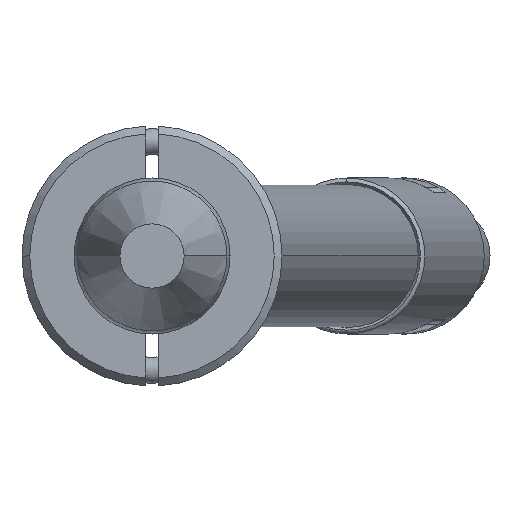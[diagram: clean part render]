
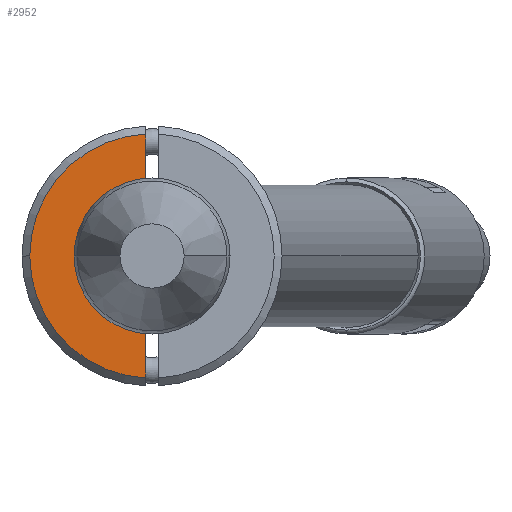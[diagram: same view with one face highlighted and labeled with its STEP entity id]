
A CAD part, front view. The second image highlights one B-rep face of the part: STEP entity #2952.
In plain terms, the highlighted planar face has unit normal (0, -1, 0).
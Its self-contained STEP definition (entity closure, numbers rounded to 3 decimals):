
#93 = AXIS2_PLACEMENT_3D ( 'NONE', #987, #3367, #694 ) ;
#322 = ORIENTED_EDGE ( 'NONE', *, *, #3650, .T. ) ;
#335 = EDGE_CURVE ( 'NONE', #2355, #2261, #3334, .T. ) ;
#375 = CARTESIAN_POINT ( 'NONE',  ( 0., -6., 0. ) ) ;
#501 = FACE_OUTER_BOUND ( 'NONE', #2864, .T. ) ;
#694 = DIRECTION ( 'NONE',  ( 0., 0., -1. ) ) ;
#720 = ORIENTED_EDGE ( 'NONE', *, *, #335, .T. ) ;
#763 = EDGE_CURVE ( 'NONE', #2355, #3071, #1296, .T. ) ;
#773 = EDGE_CURVE ( 'NONE', #2493, #2261, #3047, .T. ) ;
#778 = ORIENTED_EDGE ( 'NONE', *, *, #1329, .T. ) ;
#899 = VERTEX_POINT ( 'NONE', #1725 ) ;
#902 = AXIS2_PLACEMENT_3D ( 'NONE', #1328, #2297, #2530 ) ;
#987 = CARTESIAN_POINT ( 'NONE',  ( 0., -6., 0. ) ) ;
#1009 = ORIENTED_EDGE ( 'NONE', *, *, #773, .F. ) ;
#1284 = DIRECTION ( 'NONE',  ( 0., 0., -1. ) ) ;
#1296 = LINE ( 'NONE', #3121, #3829 ) ;
#1326 = CARTESIAN_POINT ( 'NONE',  ( 2.437, -6., 0.25 ) ) ;
#1328 = CARTESIAN_POINT ( 'NONE',  ( -5., -6., 0. ) ) ;
#1329 = EDGE_CURVE ( 'NONE', #899, #3071, #3347, .T. ) ;
#1477 = DIRECTION ( 'NONE',  ( 0., 1., 0. ) ) ;
#1557 = DIRECTION ( 'NONE',  ( 0., 0., -1. ) ) ;
#1567 = CIRCLE ( 'NONE', #93, 4.7 ) ;
#1584 = CARTESIAN_POINT ( 'NONE',  ( -5., -6., 0.25 ) ) ;
#1649 = AXIS2_PLACEMENT_3D ( 'NONE', #3035, #1477, #1557 ) ;
#1682 = PLANE ( 'NONE',  #902 ) ;
#1725 = CARTESIAN_POINT ( 'NONE',  ( 0., -6., 4.7 ) ) ;
#1905 = DIRECTION ( 'NONE',  ( -1., 0., 0. ) ) ;
#1934 = CARTESIAN_POINT ( 'NONE',  ( 4.693, -6., 0.25 ) ) ;
#2095 = VECTOR ( 'NONE', #1905, 1000. ) ;
#2261 = VERTEX_POINT ( 'NONE', #1326 ) ;
#2297 = DIRECTION ( 'NONE',  ( 0., -1., 0. ) ) ;
#2307 = CARTESIAN_POINT ( 'NONE',  ( -2.437, -6., 0.25 ) ) ;
#2355 = VERTEX_POINT ( 'NONE', #2307 ) ;
#2420 = ORIENTED_EDGE ( 'NONE', *, *, #763, .F. ) ;
#2451 = DIRECTION ( 'NONE',  ( -1., 0., 0. ) ) ;
#2493 = VERTEX_POINT ( 'NONE', #1934 ) ;
#2530 = DIRECTION ( 'NONE',  ( 0., 0., -1. ) ) ;
#2745 = DIRECTION ( 'NONE',  ( 0., -1., 0. ) ) ;
#2864 = EDGE_LOOP ( 'NONE', ( #1009, #322, #778, #2420, #720 ) ) ;
#2952 = ADVANCED_FACE ( 'NONE', ( #501 ), #1682, .T. ) ;
#2979 = AXIS2_PLACEMENT_3D ( 'NONE', #375, #2745, #1284 ) ;
#3035 = CARTESIAN_POINT ( 'NONE',  ( 0., -6., 0. ) ) ;
#3047 = LINE ( 'NONE', #1584, #2095 ) ;
#3071 = VERTEX_POINT ( 'NONE', #3514 ) ;
#3121 = CARTESIAN_POINT ( 'NONE',  ( -5., -6., 0.25 ) ) ;
#3334 = CIRCLE ( 'NONE', #1649, 2.45 ) ;
#3347 = CIRCLE ( 'NONE', #2979, 4.7 ) ;
#3367 = DIRECTION ( 'NONE',  ( 0., -1., 0. ) ) ;
#3514 = CARTESIAN_POINT ( 'NONE',  ( -4.693, -6., 0.25 ) ) ;
#3650 = EDGE_CURVE ( 'NONE', #2493, #899, #1567, .T. ) ;
#3829 = VECTOR ( 'NONE', #2451, 1000. ) ;
